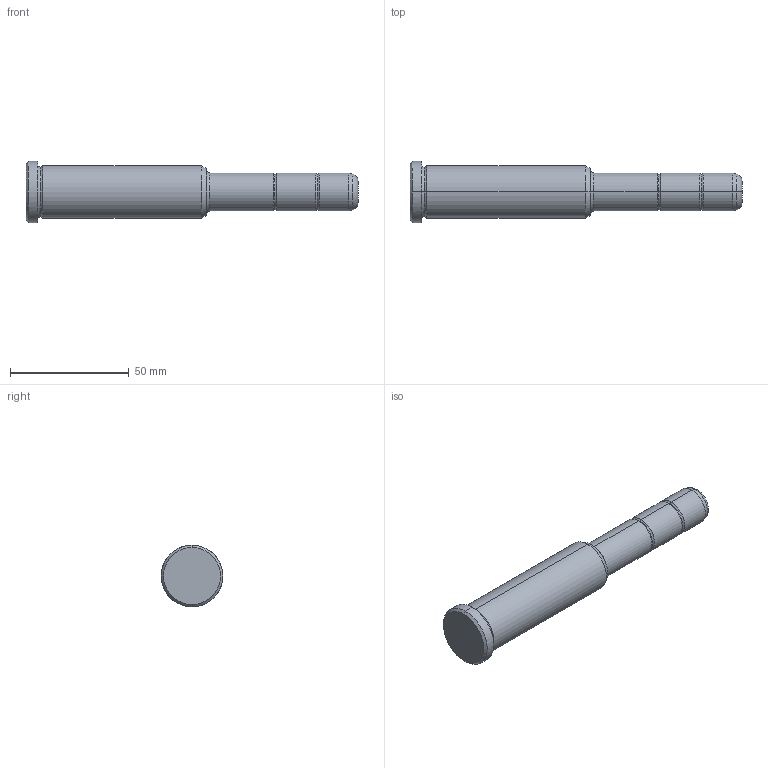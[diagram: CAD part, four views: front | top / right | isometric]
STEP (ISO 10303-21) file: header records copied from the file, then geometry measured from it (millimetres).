
FILE_DESCRIPTION(('CATIA V5 STEP Exchange'),'2;1');
FILE_NAME('C:\Users\Utente\Desktop\IO LAVORO\3D X SITO CF\X SITO\PLASTICA\351\351-16X76X140.stp','2021-08-18T12:48:34+00:00',('none'),('none'),'CATIA Version 5 Release 20 GA (IN-10)','CATIA V5 STEP AP203','none');
FILE_SCHEMA(('CONFIG_CONTROL_DESIGN'));
Length unit declared in the file: millimetre
Products named in the file (1): 351-16X76X140
Bounding box: 140 x 26 x 26 mm (x, y, z)
Volume: 42172.7 mm3; surface area: 9415.8 mm2
Topology: 1 solids, 1 shells, 36 faces, 102 edges, 70 vertices
Faces by surface type: torus 16, cylinder 10, cone 6, plane 4
Entity records: 1292 total; most frequent: CARTESIAN_POINT 321, ORIENTED_EDGE 204, DIRECTION 166, AXIS2_PLACEMENT_3D 115, EDGE_CURVE 102, CIRCLE 78, VERTEX_POINT 70, EDGE_LOOP 38
